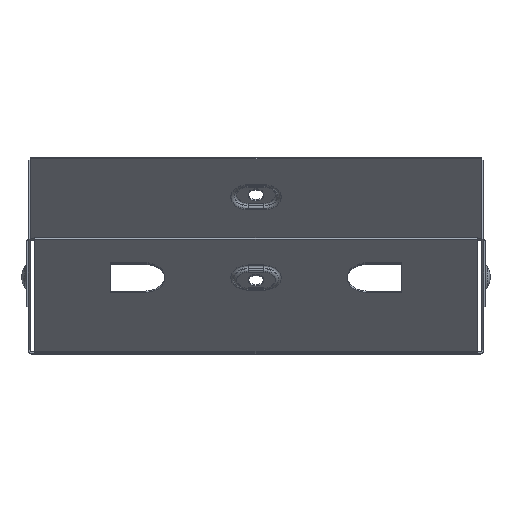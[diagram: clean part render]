
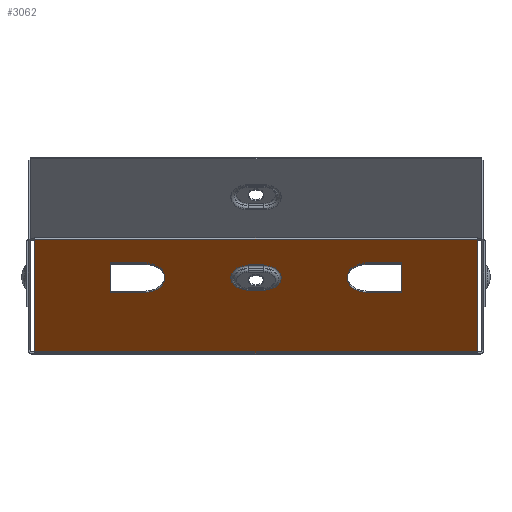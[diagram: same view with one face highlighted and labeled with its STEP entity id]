
A CAD part, top view. The second image highlights one B-rep face of the part: STEP entity #3062.
In plain terms, the highlighted planar face has unit normal (0, -0.707, 0.707).
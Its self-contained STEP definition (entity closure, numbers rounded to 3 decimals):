
#117 = CARTESIAN_POINT ( 'NONE',  ( 98.2, -50.8, 83.55 ) ) ;
#136 = EDGE_CURVE ( 'NONE', #7205, #7969, #10622, .T. ) ;
#316 = DIRECTION ( 'NONE',  ( 0., 0.707, 0.707 ) ) ;
#322 = AXIS2_PLACEMENT_3D ( 'NONE', #12594, #2781, #11475 ) ;
#553 = LINE ( 'NONE', #7399, #11710 ) ;
#653 = CARTESIAN_POINT ( 'NONE',  ( 3.5, -12.158, 122.192 ) ) ;
#654 = DIRECTION ( 'NONE',  ( 0., -0.707, -0.707 ) ) ;
#699 = CARTESIAN_POINT ( 'NONE',  ( 64., -11.167, 123.183 ) ) ;
#749 = VERTEX_POINT ( 'NONE', #11351 ) ;
#946 = VERTEX_POINT ( 'NONE', #11777 ) ;
#1065 = VERTEX_POINT ( 'NONE', #3411 ) ;
#1098 = ORIENTED_EDGE ( 'NONE', *, *, #2456, .T. ) ;
#1152 = FACE_BOUND ( 'NONE', #3163, .T. ) ;
#1474 = EDGE_CURVE ( 'NONE', #12270, #4561, #8869, .T. ) ;
#1483 = CARTESIAN_POINT ( 'NONE',  ( 49., -23.895, 110.455 ) ) ;
#1490 = EDGE_LOOP ( 'NONE', ( #11242, #11497, #3736, #12194 ) ) ;
#1534 = CARTESIAN_POINT ( 'NONE',  ( 49., -11.167, 123.183 ) ) ;
#1719 = LINE ( 'NONE', #10532, #11854 ) ;
#1776 = ORIENTED_EDGE ( 'NONE', *, *, #8803, .T. ) ;
#1820 = FACE_BOUND ( 'NONE', #1490, .T. ) ;
#2087 = ORIENTED_EDGE ( 'NONE', *, *, #10630, .T. ) ;
#2247 = EDGE_CURVE ( 'NONE', #10386, #11380, #2380, .T. ) ;
#2305 = ORIENTED_EDGE ( 'NONE', *, *, #12646, .T. ) ;
#2380 = CIRCLE ( 'NONE', #322, 9. ) ;
#2423 = CARTESIAN_POINT ( 'NONE',  ( 3.5, -12.158, 122.192 ) ) ;
#2456 = EDGE_CURVE ( 'NONE', #4679, #7205, #1719, .T. ) ;
#2478 = CARTESIAN_POINT ( 'NONE',  ( 3.5, -22.903, 111.447 ) ) ;
#2486 = CARTESIAN_POINT ( 'NONE',  ( 3.5, -17.531, 116.819 ) ) ;
#2558 = LINE ( 'NONE', #9570, #4110 ) ;
#2707 = ORIENTED_EDGE ( 'NONE', *, *, #8360, .T. ) ;
#2781 = DIRECTION ( 'NONE',  ( 0., 0.707, -0.707 ) ) ;
#2823 = CARTESIAN_POINT ( 'NONE',  ( 49., -11.167, 123.183 ) ) ;
#2846 = LINE ( 'NONE', #12694, #13807 ) ;
#2936 = VECTOR ( 'NONE', #12837, 1000. ) ;
#2968 = AXIS2_PLACEMENT_3D ( 'NONE', #117, #9744, #4552 ) ;
#3062 = ADVANCED_FACE ( 'NONE', ( #13775, #1820, #1152, #12958 ), #10883, .F. ) ;
#3163 = EDGE_LOOP ( 'NONE', ( #2305, #1776, #2707, #13059 ) ) ;
#3294 = EDGE_LOOP ( 'NONE', ( #4808, #3563, #1098, #11088 ) ) ;
#3334 = CARTESIAN_POINT ( 'NONE',  ( -49., -11.167, 123.183 ) ) ;
#3411 = CARTESIAN_POINT ( 'NONE',  ( -64., -23.895, 110.455 ) ) ;
#3563 = ORIENTED_EDGE ( 'NONE', *, *, #6534, .F. ) ;
#3736 = ORIENTED_EDGE ( 'NONE', *, *, #12273, .T. ) ;
#3743 = DIRECTION ( 'NONE',  ( 0., 0.707, -0.707 ) ) ;
#3758 = DIRECTION ( 'NONE',  ( 1., 0., 0. ) ) ;
#3932 = CARTESIAN_POINT ( 'NONE',  ( -3.5, -17.531, 116.819 ) ) ;
#3967 = VERTEX_POINT ( 'NONE', #653 ) ;
#4110 = VECTOR ( 'NONE', #13825, 1000. ) ;
#4155 = LINE ( 'NONE', #2423, #10032 ) ;
#4297 = LINE ( 'NONE', #699, #9013 ) ;
#4552 = DIRECTION ( 'NONE',  ( 0., 0.707, 0.707 ) ) ;
#4561 = VERTEX_POINT ( 'NONE', #10321 ) ;
#4679 = VERTEX_POINT ( 'NONE', #8310 ) ;
#4699 = VECTOR ( 'NONE', #13276, 1000. ) ;
#4808 = ORIENTED_EDGE ( 'NONE', *, *, #8136, .T. ) ;
#4886 = CARTESIAN_POINT ( 'NONE',  ( -64., -11.167, 123.183 ) ) ;
#5115 = CARTESIAN_POINT ( 'NONE',  ( 98.2, -50.273, 84.077 ) ) ;
#5522 = VECTOR ( 'NONE', #3758, 1000. ) ;
#5691 = VERTEX_POINT ( 'NONE', #7533 ) ;
#5821 = VERTEX_POINT ( 'NONE', #13106 ) ;
#5967 = DIRECTION ( 'NONE',  ( 0., 0.707, 0.707 ) ) ;
#6020 = CIRCLE ( 'NONE', #8658, 9. ) ;
#6207 = DIRECTION ( 'NONE',  ( 0., 0.707, -0.707 ) ) ;
#6534 = EDGE_CURVE ( 'NONE', #4679, #5821, #7536, .T. ) ;
#6623 = CARTESIAN_POINT ( 'NONE',  ( 64., -23.895, 110.455 ) ) ;
#6920 = DIRECTION ( 'NONE',  ( 1., 0., 0. ) ) ;
#6958 = CIRCLE ( 'NONE', #10342, 7.598 ) ;
#7081 = EDGE_CURVE ( 'NONE', #13659, #9679, #4297, .T. ) ;
#7205 = VERTEX_POINT ( 'NONE', #13310 ) ;
#7399 = CARTESIAN_POINT ( 'NONE',  ( -97.299, -50.8, 83.55 ) ) ;
#7466 = CARTESIAN_POINT ( 'NONE',  ( 64., -11.167, 123.183 ) ) ;
#7533 = CARTESIAN_POINT ( 'NONE',  ( -49., -23.895, 110.455 ) ) ;
#7536 = LINE ( 'NONE', #5115, #2936 ) ;
#7969 = VERTEX_POINT ( 'NONE', #8450 ) ;
#8136 = EDGE_CURVE ( 'NONE', #7969, #5821, #553, .T. ) ;
#8310 = CARTESIAN_POINT ( 'NONE',  ( 97.299, -50.273, 84.077 ) ) ;
#8360 = EDGE_CURVE ( 'NONE', #13524, #946, #2558, .T. ) ;
#8439 = DIRECTION ( 'NONE',  ( 0., -0.707, -0.707 ) ) ;
#8450 = CARTESIAN_POINT ( 'NONE',  ( -97.299, -0.56, 133.79 ) ) ;
#8631 = DIRECTION ( 'NONE',  ( -1., 0., 0. ) ) ;
#8658 = AXIS2_PLACEMENT_3D ( 'NONE', #10263, #3743, #13446 ) ;
#8731 = CARTESIAN_POINT ( 'NONE',  ( -64., -11.167, 123.183 ) ) ;
#8803 = EDGE_CURVE ( 'NONE', #3967, #13524, #12681, .T. ) ;
#8869 = LINE ( 'NONE', #3334, #10545 ) ;
#9013 = VECTOR ( 'NONE', #654, 1000. ) ;
#9107 = CARTESIAN_POINT ( 'NONE',  ( 98.2, -0.56, 133.79 ) ) ;
#9492 = EDGE_CURVE ( 'NONE', #946, #749, #6958, .T. ) ;
#9570 = CARTESIAN_POINT ( 'NONE',  ( 3.5, -22.903, 111.447 ) ) ;
#9679 = VERTEX_POINT ( 'NONE', #6623 ) ;
#9698 = DIRECTION ( 'NONE',  ( 1., 0., 0. ) ) ;
#9744 = DIRECTION ( 'NONE',  ( 0., 0.707, -0.707 ) ) ;
#9771 = LINE ( 'NONE', #10922, #10100 ) ;
#10032 = VECTOR ( 'NONE', #9698, 1000. ) ;
#10100 = VECTOR ( 'NONE', #8631, 1000. ) ;
#10263 = CARTESIAN_POINT ( 'NONE',  ( -49., -17.531, 116.819 ) ) ;
#10321 = CARTESIAN_POINT ( 'NONE',  ( -49., -11.167, 123.183 ) ) ;
#10342 = AXIS2_PLACEMENT_3D ( 'NONE', #3932, #6207, #13710 ) ;
#10386 = VERTEX_POINT ( 'NONE', #1483 ) ;
#10412 = EDGE_CURVE ( 'NONE', #1065, #12270, #13298, .T. ) ;
#10446 = AXIS2_PLACEMENT_3D ( 'NONE', #2486, #13239, #316 ) ;
#10449 = ORIENTED_EDGE ( 'NONE', *, *, #7081, .T. ) ;
#10471 = VECTOR ( 'NONE', #5967, 1000. ) ;
#10532 = CARTESIAN_POINT ( 'NONE',  ( 97.299, -51.015, 83.335 ) ) ;
#10545 = VECTOR ( 'NONE', #6920, 1000. ) ;
#10622 = LINE ( 'NONE', #9107, #4699 ) ;
#10630 = EDGE_CURVE ( 'NONE', #9679, #10386, #2846, .T. ) ;
#10664 = ORIENTED_EDGE ( 'NONE', *, *, #12020, .T. ) ;
#10747 = DIRECTION ( 'NONE',  ( -1., 0., 0. ) ) ;
#10793 = EDGE_CURVE ( 'NONE', #5691, #1065, #9771, .T. ) ;
#10883 = PLANE ( 'NONE',  #2968 ) ;
#10922 = CARTESIAN_POINT ( 'NONE',  ( -49., -23.895, 110.455 ) ) ;
#11088 = ORIENTED_EDGE ( 'NONE', *, *, #136, .T. ) ;
#11099 = ORIENTED_EDGE ( 'NONE', *, *, #2247, .T. ) ;
#11242 = ORIENTED_EDGE ( 'NONE', *, *, #10412, .T. ) ;
#11351 = CARTESIAN_POINT ( 'NONE',  ( -3.5, -12.158, 122.192 ) ) ;
#11380 = VERTEX_POINT ( 'NONE', #2823 ) ;
#11425 = LINE ( 'NONE', #1534, #5522 ) ;
#11475 = DIRECTION ( 'NONE',  ( 0., 0.707, 0.707 ) ) ;
#11497 = ORIENTED_EDGE ( 'NONE', *, *, #1474, .T. ) ;
#11710 = VECTOR ( 'NONE', #8439, 1000. ) ;
#11777 = CARTESIAN_POINT ( 'NONE',  ( -3.5, -22.903, 111.447 ) ) ;
#11854 = VECTOR ( 'NONE', #13838, 1000. ) ;
#12020 = EDGE_CURVE ( 'NONE', #11380, #13659, #11425, .T. ) ;
#12194 = ORIENTED_EDGE ( 'NONE', *, *, #10793, .T. ) ;
#12270 = VERTEX_POINT ( 'NONE', #8731 ) ;
#12273 = EDGE_CURVE ( 'NONE', #4561, #5691, #6020, .T. ) ;
#12594 = CARTESIAN_POINT ( 'NONE',  ( 49., -17.531, 116.819 ) ) ;
#12646 = EDGE_CURVE ( 'NONE', #749, #3967, #4155, .T. ) ;
#12681 = CIRCLE ( 'NONE', #10446, 7.598 ) ;
#12694 = CARTESIAN_POINT ( 'NONE',  ( 49., -23.895, 110.455 ) ) ;
#12837 = DIRECTION ( 'NONE',  ( -1., 0., 0. ) ) ;
#12958 = FACE_OUTER_BOUND ( 'NONE', #3294, .T. ) ;
#13059 = ORIENTED_EDGE ( 'NONE', *, *, #9492, .T. ) ;
#13106 = CARTESIAN_POINT ( 'NONE',  ( -97.299, -50.273, 84.077 ) ) ;
#13167 = EDGE_LOOP ( 'NONE', ( #2087, #11099, #10664, #10449 ) ) ;
#13239 = DIRECTION ( 'NONE',  ( 0., 0.707, -0.707 ) ) ;
#13276 = DIRECTION ( 'NONE',  ( -1., 0., 0. ) ) ;
#13298 = LINE ( 'NONE', #4886, #10471 ) ;
#13310 = CARTESIAN_POINT ( 'NONE',  ( 97.299, -0.56, 133.79 ) ) ;
#13446 = DIRECTION ( 'NONE',  ( 0., -0.707, -0.707 ) ) ;
#13524 = VERTEX_POINT ( 'NONE', #2478 ) ;
#13659 = VERTEX_POINT ( 'NONE', #7466 ) ;
#13710 = DIRECTION ( 'NONE',  ( 0., 0.707, 0.707 ) ) ;
#13775 = FACE_BOUND ( 'NONE', #13167, .T. ) ;
#13807 = VECTOR ( 'NONE', #10747, 1000. ) ;
#13825 = DIRECTION ( 'NONE',  ( -1., 0., 0. ) ) ;
#13838 = DIRECTION ( 'NONE',  ( 0., 0.707, 0.707 ) ) ;
